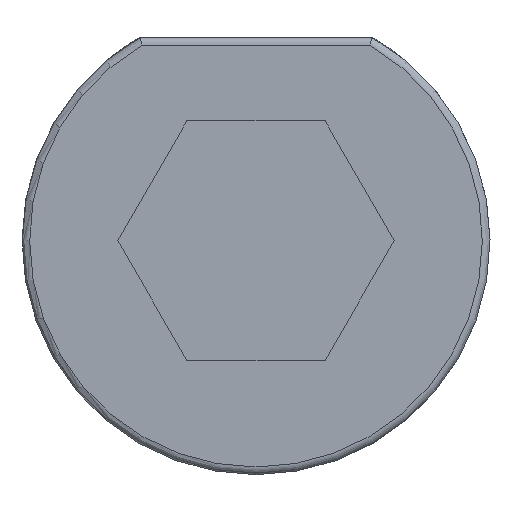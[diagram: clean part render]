
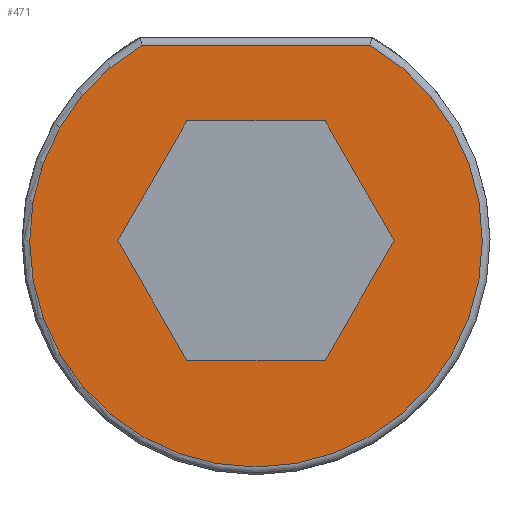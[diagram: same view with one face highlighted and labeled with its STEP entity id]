
A CAD part, front view. The second image highlights one B-rep face of the part: STEP entity #471.
In plain terms, the highlighted planar face has unit normal (0, -1, 0).
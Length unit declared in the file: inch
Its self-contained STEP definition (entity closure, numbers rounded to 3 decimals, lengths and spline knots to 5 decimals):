
#21=FACE_BOUND('',#95,.T.);
#25=PLANE('',#517);
#37=CIRCLE('',#514,0.295);
#65=FACE_OUTER_BOUND('',#94,.T.);
#94=EDGE_LOOP('',(#332,#333));
#95=EDGE_LOOP('',(#334,#335,#336,#337,#338,#339));
#134=LINE('',#703,#170);
#138=LINE('',#747,#174);
#139=LINE('',#749,#175);
#140=LINE('',#751,#176);
#141=LINE('',#753,#177);
#142=LINE('',#755,#178);
#143=LINE('',#756,#179);
#170=VECTOR('',#565,0.3937);
#174=VECTOR('',#581,0.3937);
#175=VECTOR('',#582,0.3937);
#176=VECTOR('',#583,0.3937);
#177=VECTOR('',#584,0.3937);
#178=VECTOR('',#585,0.3937);
#179=VECTOR('',#586,0.3937);
#206=VERTEX_POINT('',#701);
#207=VERTEX_POINT('',#702);
#212=VERTEX_POINT('',#745);
#213=VERTEX_POINT('',#746);
#214=VERTEX_POINT('',#748);
#215=VERTEX_POINT('',#750);
#216=VERTEX_POINT('',#752);
#217=VERTEX_POINT('',#754);
#250=EDGE_CURVE('',#206,#207,#134,.T.);
#255=EDGE_CURVE('',#207,#206,#37,.T.);
#259=EDGE_CURVE('',#212,#213,#138,.T.);
#260=EDGE_CURVE('',#213,#214,#139,.T.);
#261=EDGE_CURVE('',#214,#215,#140,.T.);
#262=EDGE_CURVE('',#215,#216,#141,.T.);
#263=EDGE_CURVE('',#216,#217,#142,.T.);
#264=EDGE_CURVE('',#217,#212,#143,.T.);
#332=ORIENTED_EDGE('',*,*,#250,.F.);
#333=ORIENTED_EDGE('',*,*,#255,.F.);
#334=ORIENTED_EDGE('',*,*,#259,.T.);
#335=ORIENTED_EDGE('',*,*,#260,.T.);
#336=ORIENTED_EDGE('',*,*,#261,.T.);
#337=ORIENTED_EDGE('',*,*,#262,.T.);
#338=ORIENTED_EDGE('',*,*,#263,.T.);
#339=ORIENTED_EDGE('',*,*,#264,.T.);
#471=ADVANCED_FACE('',(#65,#21),#25,.T.);
#514=AXIS2_PLACEMENT_3D('',#737,#571,#572);
#517=AXIS2_PLACEMENT_3D('',#744,#579,#580);
#565=DIRECTION('',(1.,0.,0.));
#571=DIRECTION('center_axis',(0.,1.,0.));
#572=DIRECTION('ref_axis',(0.,0.,-1.));
#579=DIRECTION('center_axis',(0.,-1.,0.));
#580=DIRECTION('ref_axis',(0.,0.,-1.));
#581=DIRECTION('',(1.,0.,0.));
#582=DIRECTION('',(0.5,0.,-0.866));
#583=DIRECTION('',(-0.5,0.,-0.866));
#584=DIRECTION('',(-1.,0.,0.));
#585=DIRECTION('',(-0.5,0.,0.866));
#586=DIRECTION('',(0.5,0.,0.866));
#701=CARTESIAN_POINT('',(-0.14832,0.,0.255));
#702=CARTESIAN_POINT('',(0.14832,0.,0.255));
#703=CARTESIAN_POINT('',(0.20407,0.,0.255));
#737=CARTESIAN_POINT('Origin',(0.,0.,0.));
#744=CARTESIAN_POINT('Origin',(0.,0.,0.));
#745=CARTESIAN_POINT('',(-0.09007,0.,0.156));
#746=CARTESIAN_POINT('',(0.09007,0.,0.156));
#747=CARTESIAN_POINT('',(-0.04503,0.,0.156));
#748=CARTESIAN_POINT('',(0.18013,0.,0.));
#749=CARTESIAN_POINT('',(0.11258,0.,0.117));
#750=CARTESIAN_POINT('',(0.09007,0.,-0.156));
#751=CARTESIAN_POINT('',(0.15762,0.,-0.039));
#752=CARTESIAN_POINT('',(-0.09007,0.,-0.156));
#753=CARTESIAN_POINT('',(0.04503,0.,-0.156));
#754=CARTESIAN_POINT('',(-0.18013,0.,0.));
#755=CARTESIAN_POINT('',(-0.11258,0.,-0.117));
#756=CARTESIAN_POINT('',(-0.15762,0.,0.039));
